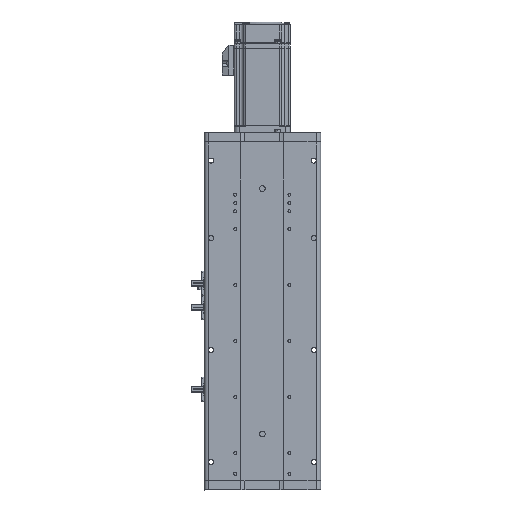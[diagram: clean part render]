
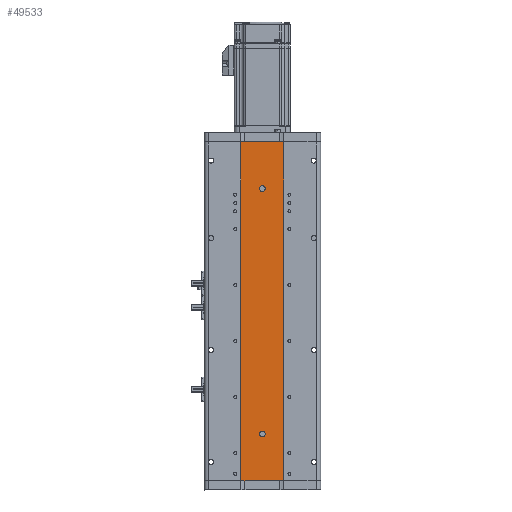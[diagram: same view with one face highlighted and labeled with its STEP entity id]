
A CAD part, front view. The second image highlights one B-rep face of the part: STEP entity #49533.
In plain terms, the highlighted planar face has unit normal (0, -1, 0).
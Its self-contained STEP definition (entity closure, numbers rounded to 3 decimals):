
#122 = EDGE_CURVE ( 'NONE', #44420, #45626, #43680, .T. ) ;
#645 = EDGE_CURVE ( 'NONE', #51045, #966, #36771, .T. ) ;
#966 = VERTEX_POINT ( 'NONE', #37110 ) ;
#1285 = LINE ( 'NONE', #36089, #32788 ) ;
#1931 = FACE_BOUND ( 'NONE', #13929, .T. ) ;
#2830 = VERTEX_POINT ( 'NONE', #50135 ) ;
#4754 = VERTEX_POINT ( 'NONE', #50079 ) ;
#4870 = DIRECTION ( 'NONE',  ( 0., -1., 0. ) ) ;
#5328 = VECTOR ( 'NONE', #30930, 1000. ) ;
#6444 = AXIS2_PLACEMENT_3D ( 'NONE', #36409, #12865, #40393 ) ;
#6749 = CARTESIAN_POINT ( 'NONE',  ( 0., 1., -128.5 ) ) ;
#8528 = CARTESIAN_POINT ( 'NONE',  ( 23., 1., 181.501 ) ) ;
#8985 = ORIENTED_EDGE ( 'NONE', *, *, #645, .F. ) ;
#9966 = AXIS2_PLACEMENT_3D ( 'NONE', #15782, #19549, #47336 ) ;
#10983 = CIRCLE ( 'NONE', #22951, 3. ) ;
#11794 = ORIENTED_EDGE ( 'NONE', *, *, #45490, .F. ) ;
#11815 = PLANE ( 'NONE',  #9966 ) ;
#12142 = CARTESIAN_POINT ( 'NONE',  ( -23., 1., -181.5 ) ) ;
#12315 = DIRECTION ( 'NONE',  ( 0., -1., 0. ) ) ;
#12503 = FACE_BOUND ( 'NONE', #42044, .T. ) ;
#12517 = DIRECTION ( 'NONE',  ( 0., 0., -1. ) ) ;
#12528 = DIRECTION ( 'NONE',  ( 0., 0., -1. ) ) ;
#12865 = DIRECTION ( 'NONE',  ( 0., -1., 0. ) ) ;
#12941 = CIRCLE ( 'NONE', #34601, 3. ) ;
#13916 = CARTESIAN_POINT ( 'NONE',  ( -23., 1., 181.5 ) ) ;
#13929 = EDGE_LOOP ( 'NONE', ( #40348, #37154 ) ) ;
#15557 = EDGE_LOOP ( 'NONE', ( #26134, #37347, #11794, #8985 ) ) ;
#15782 = CARTESIAN_POINT ( 'NONE',  ( 23., 1., 181.501 ) ) ;
#16026 = EDGE_CURVE ( 'NONE', #4754, #20006, #42819, .T. ) ;
#16496 = DIRECTION ( 'NONE',  ( 0., -1., 0. ) ) ;
#17757 = EDGE_CURVE ( 'NONE', #45626, #44420, #12941, .T. ) ;
#17761 = VERTEX_POINT ( 'NONE', #12142 ) ;
#17768 = LINE ( 'NONE', #8528, #37451 ) ;
#19549 = DIRECTION ( 'NONE',  ( 0., 1., 0. ) ) ;
#20006 = VERTEX_POINT ( 'NONE', #6749 ) ;
#20497 = EDGE_CURVE ( 'NONE', #17761, #2830, #32482, .T. ) ;
#21889 = DIRECTION ( 'NONE',  ( 1., 0., 0. ) ) ;
#22771 = EDGE_CURVE ( 'NONE', #51045, #17761, #1285, .T. ) ;
#22911 = FACE_OUTER_BOUND ( 'NONE', #15557, .T. ) ;
#22951 = AXIS2_PLACEMENT_3D ( 'NONE', #40069, #16496, #44037 ) ;
#26134 = ORIENTED_EDGE ( 'NONE', *, *, #22771, .T. ) ;
#28527 = CARTESIAN_POINT ( 'NONE',  ( 0., 1., 131.5 ) ) ;
#30429 = ORIENTED_EDGE ( 'NONE', *, *, #16026, .F. ) ;
#30930 = DIRECTION ( 'NONE',  ( 1., 0., 0. ) ) ;
#31902 = CARTESIAN_POINT ( 'NONE',  ( 0., 1., 134.5 ) ) ;
#32457 = DIRECTION ( 'NONE',  ( 0., 0., -1. ) ) ;
#32482 = LINE ( 'NONE', #41524, #33721 ) ;
#32788 = VECTOR ( 'NONE', #12517, 1000. ) ;
#33721 = VECTOR ( 'NONE', #21889, 1000. ) ;
#34601 = AXIS2_PLACEMENT_3D ( 'NONE', #35867, #12315, #39842 ) ;
#35867 = CARTESIAN_POINT ( 'NONE',  ( 0., 1., 131.5 ) ) ;
#36089 = CARTESIAN_POINT ( 'NONE',  ( -23., 1., 181.501 ) ) ;
#36409 = CARTESIAN_POINT ( 'NONE',  ( 0., 1., -131.5 ) ) ;
#36771 = LINE ( 'NONE', #50445, #5328 ) ;
#36925 = CARTESIAN_POINT ( 'NONE',  ( 0., 1., 128.5 ) ) ;
#37110 = CARTESIAN_POINT ( 'NONE',  ( 23., 1., 181.5 ) ) ;
#37154 = ORIENTED_EDGE ( 'NONE', *, *, #122, .F. ) ;
#37347 = ORIENTED_EDGE ( 'NONE', *, *, #20497, .T. ) ;
#37451 = VECTOR ( 'NONE', #12528, 1000. ) ;
#39381 = ORIENTED_EDGE ( 'NONE', *, *, #39632, .F. ) ;
#39632 = EDGE_CURVE ( 'NONE', #20006, #4754, #10983, .T. ) ;
#39842 = DIRECTION ( 'NONE',  ( 0., 0., -1. ) ) ;
#40069 = CARTESIAN_POINT ( 'NONE',  ( 0., 1., -131.5 ) ) ;
#40348 = ORIENTED_EDGE ( 'NONE', *, *, #17757, .F. ) ;
#40393 = DIRECTION ( 'NONE',  ( 0., 0., -1. ) ) ;
#41524 = CARTESIAN_POINT ( 'NONE',  ( 23., 1., -181.5 ) ) ;
#42044 = EDGE_LOOP ( 'NONE', ( #30429, #39381 ) ) ;
#42819 = CIRCLE ( 'NONE', #6444, 3. ) ;
#43680 = CIRCLE ( 'NONE', #50729, 3. ) ;
#44037 = DIRECTION ( 'NONE',  ( 0., 0., -1. ) ) ;
#44420 = VERTEX_POINT ( 'NONE', #31902 ) ;
#45490 = EDGE_CURVE ( 'NONE', #966, #2830, #17768, .T. ) ;
#45626 = VERTEX_POINT ( 'NONE', #36925 ) ;
#47336 = DIRECTION ( 'NONE',  ( 0., 0., 1. ) ) ;
#49533 = ADVANCED_FACE ( 'NONE', ( #12503, #1931, #22911 ), #11815, .F. ) ;
#50079 = CARTESIAN_POINT ( 'NONE',  ( 0., 1., -134.5 ) ) ;
#50135 = CARTESIAN_POINT ( 'NONE',  ( 23., 1., -181.5 ) ) ;
#50445 = CARTESIAN_POINT ( 'NONE',  ( 23., 1., 181.5 ) ) ;
#50729 = AXIS2_PLACEMENT_3D ( 'NONE', #28527, #4870, #32457 ) ;
#51045 = VERTEX_POINT ( 'NONE', #13916 ) ;
